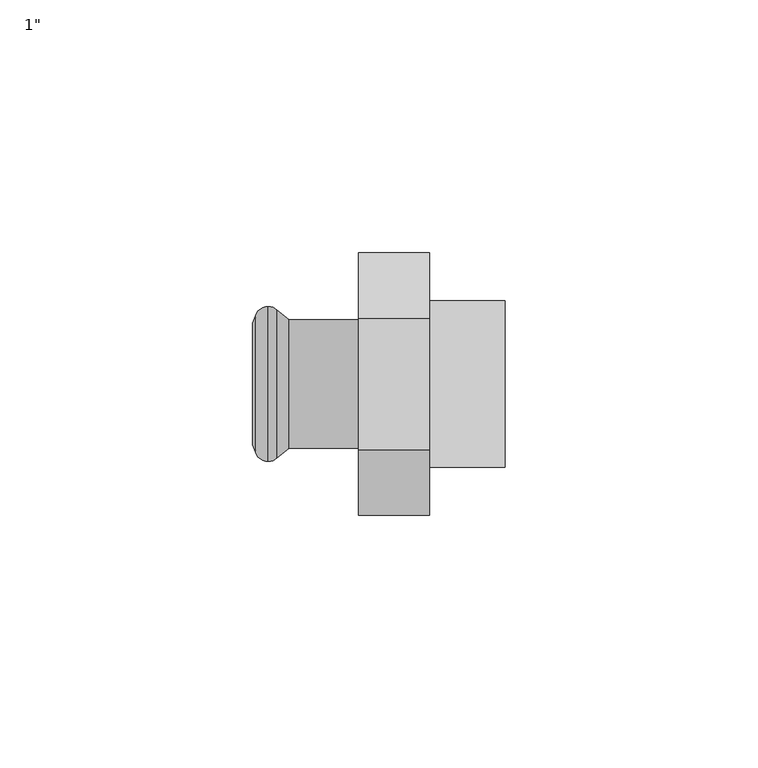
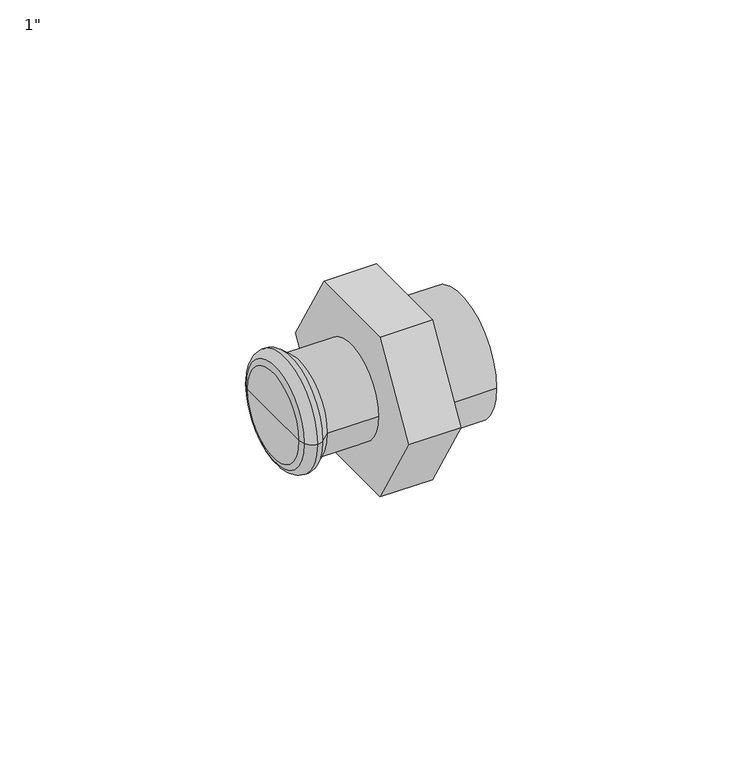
"""IFC4 building model written with IfcOpenShell, lengths in millimetres: pipe fitting geometry."""

from ifc_helpers import new_model, si_unit, point, frame, origin, origin_2d, place, context, project, spatial, polyline, circle_curve, ellipse_curve, trimmed, segment, composite_curve, outline, extrude, source, transform, mapped, element, save
from ifc_brep_helpers import plane_surface, cylinder_surface, revolved_surface, advanced_brep


def pipe_fitting_14387145(model_context):
    return source(origin(), model_context, "Body", "SolidModel", [
        extrude(outline(composite_curve([segment(trimmed(circle_curve(origin_2d(), 16.5), [point((-16.5, 0.0))], [point((16.5, 0.0))], False, "CARTESIAN"), True, "CONTINUOUS"), segment(trimmed(circle_curve(origin_2d(), 16.5), [point((16.5, 0.0))], [point((-16.5, 0.0))], False, "CARTESIAN"), True, "CONTINUOUS")], self_intersect=False)), frame((14.0, 0.0, 0.0), z_axis=(1.0, 0.0, 0.0), x_axis=(0.0, 1.0, 0.0)), (0.0, 0.0, 1.0), 15.0),
        extrude(outline(polyline([(-25.9807621, 0.0), (-12.9903811, 22.5), (12.9903811, 22.5), (25.9807621, 0.0), (12.9903811, -22.5), (-12.9903811, -22.5), (-25.9807621, 0.0)])), frame((0.0, 0.0, 0.0), z_axis=(1.0, 0.0, 0.0), x_axis=(0.0, 1.0, 0.0)), (0.0, 0.0, 1.0), 14.0),
        advanced_brep(
        [(-13.7838092, -12.7, 0.0), (-13.7838092, 12.7, 0.0), (0.0, 12.7, 0.0), (0.0, -12.7, 0.0), (-16.0922627, -14.6370225, 0.0), (-16.0922627, 14.6370225, 0.0), (-17.8921278, -15.325, 0.0), (-17.8921278, 15.325, 0.0), (-20.432052, -13.5484544, 0.0), (-20.432052, 13.5484544, 0.0), (-21.0, -11.9880302, 0.0), (-21.0, 11.9880302, 0.0), (-21.0, 0.0, 0.0), (0.0, 0.0, 0.0)],
        [
            (0, 1, circle_curve(frame((-13.7838092, 0.0, 0.0), z_axis=(1.0, 0.0, 0.0), x_axis=(0.0, 1.0, 0.0)), 12.7)),
            (1, 2),
            (2, 3, circle_curve(frame((0.0, 0.0, 0.0), z_axis=(-1.0, 0.0, 0.0), x_axis=(0.0, 1.0, 0.0)), 12.7)),
            (3, 0),
            (1, 0, circle_curve(frame((-13.7838092, 0.0, 0.0), z_axis=(1.0, 0.0, 0.0), x_axis=(0.0, 1.0, 0.0)), 12.7)),
            (3, 2, circle_curve(frame((0.0, 0.0, 0.0), z_axis=(-1.0, 0.0, 0.0), x_axis=(0.0, 1.0, 0.0)), 12.7)),
            (4, 5, circle_curve(frame((-16.0922627, 0.0, 0.0), z_axis=(1.0, 0.0, 0.0), x_axis=(0.0, 1.0, 0.0)), 14.6370225)),
            (5, 1),
            (0, 4),
            (5, 4, circle_curve(frame((-16.0922627, 0.0, 0.0), z_axis=(1.0, 0.0, 0.0), x_axis=(0.0, 1.0, 0.0)), 14.6370225)),
            (6, 7, circle_curve(frame((-17.8921278, 0.0, 0.0), z_axis=(1.0, 0.0, 0.0), x_axis=(0.0, 1.0, 0.0)), 15.325)),
            (7, 5, circle_curve(frame((-17.8935049, 12.6230333, 0.0), z_axis=(0.0, 0.0, -1.0), x_axis=(1.0, 0.0, 0.0)), 2.701967)),
            (4, 6, circle_curve(frame((-17.8935049, -12.6230333, 0.0), z_axis=(0.0, 0.0, -1.0), x_axis=(1.0, 0.0, 0.0)), 2.701967)),
            (7, 6, circle_curve(frame((-17.8921278, 0.0, 0.0), z_axis=(1.0, 0.0, 0.0), x_axis=(0.0, 1.0, 0.0)), 15.325)),
            (8, 9, circle_curve(frame((-20.432052, 0.0, 0.0), z_axis=(1.0, 0.0, 0.0), x_axis=(0.0, 1.0, 0.0)), 13.5484544)),
            (9, 7, circle_curve(frame((-17.89488, 12.6249993, 0.0), z_axis=(0.0, 0.0, -1.0), x_axis=(1.0, 0.0, 0.0)), 2.7000021)),
            (6, 8, circle_curve(frame((-17.89488, -12.6249993, 0.0), z_axis=(0.0, 0.0, -1.0), x_axis=(1.0, 0.0, 0.0)), 2.7000021)),
            (9, 8, circle_curve(frame((-20.432052, 0.0, 0.0), z_axis=(1.0, 0.0, 0.0), x_axis=(0.0, 1.0, 0.0)), 13.5484544)),
            (10, 11, circle_curve(frame((-21.0, 0.0, 0.0), z_axis=(1.0, 0.0, 0.0), x_axis=(0.0, 1.0, 0.0)), 11.9880302)),
            (11, 9),
            (8, 10),
            (11, 10, circle_curve(frame((-21.0, 0.0, 0.0), z_axis=(1.0, 0.0, 0.0), x_axis=(0.0, 1.0, 0.0)), 11.9880302)),
            (12, 11),
            (10, 12),
            (2, 13),
            (13, 3),
        ],
        [
            cylinder_surface(frame((1342.742668, 0.0, 0.0), z_axis=(-1.0, 0.0, 0.0), x_axis=(0.0, 1.0, 0.0)), 12.7),
            revolved_surface(polyline([(-13.7838092, 12.7, 0.0), (-16.0922627, 14.6370225, 0.0)]), (1342.742668, 0.0, 0.0), (-1.0, 0.0, 0.0)),
            revolved_surface(trimmed(ellipse_curve(frame((-17.8935049, 12.6230333, 0.0), z_axis=(0.0, 0.0, 1.0), x_axis=(1.0, 0.0, 0.0)), 2.701967, 2.701967), [point((-16.0922627, 14.6370225, 0.0))], [point((-17.8921278, 15.325, 0.0))], True, "CARTESIAN"), (1342.742668, 0.0, 0.0), (-1.0, 0.0, 0.0)),
            revolved_surface(trimmed(ellipse_curve(frame((-17.89488, 12.6249993, 0.0), z_axis=(0.0, 0.0, 1.0), x_axis=(1.0, 0.0, 0.0)), 2.7000021, 2.7000021), [point((-17.8921278, 15.325, 0.0))], [point((-20.432052, 13.5484544, 0.0))], True, "CARTESIAN"), (1342.742668, 0.0, 0.0), (-1.0, 0.0, 0.0)),
            revolved_surface(polyline([(-20.432052, 13.5484544, 0.0), (-21.0, 11.9880302, 0.0)]), (1342.742668, 0.0, 0.0), (-1.0, 0.0, 0.0)),
            plane_surface(frame((-21.0, 0.0, 0.0), z_axis=(-1.0, 0.0, 0.0), x_axis=(0.0, 1.0, 0.0))),
            plane_surface(frame((0.0, 0.0, 0.0), z_axis=(1.0, 0.0, 0.0), x_axis=(0.0, 1.0, 0.0))),
        ],
        [
            (0, [[1, 2, 3, 4]]),
            (0, [[5, -4, 6, -2]]),
            (1, [[7, 8, -1, 9]]),
            (1, [[10, -9, -5, -8]]),
            (2, [[11, 12, -7, 13]]),
            (2, [[14, -13, -10, -12]]),
            (3, [[15, 16, -11, 17]]),
            (3, [[18, -17, -14, -16]]),
            (4, [[19, 20, -15, 21]]),
            (4, [[22, -21, -18, -20]]),
            (5, [[23, -19, 24]]),
            (5, [[-24, -22, -23]]),
            (6, [[-3, 25, 26]]),
            (6, [[-6, -26, -25]]),
        ],
    ),
    ])


if __name__ == "__main__":
    model = new_model("IFC4")
    model_context = context("Model", 3, world=origin())
    ifc_project = project(units=[si_unit("LENGTHUNIT", "METRE", prefix="MILLI")], contexts=[model_context])
    site = spatial("IfcSite", under=ifc_project)
    building = spatial("IfcBuilding", under=site)
    placement = place(None, origin())
    pipe_fitting_shape = pipe_fitting_14387145(model_context)
    element("IfcPipeFitting", 1, ObjectType="KAN-therm Steel złączka z GZ : 1\"", at=placement, inside=building, context=model_context, shape_type="MappedRepresentation", body=[
        mapped(pipe_fitting_shape, transform((0.0, 0.0, 0.0), x_axis=(1.0, 0.0, 0.0), y_axis=(0.0, 1.0, 0.0), z_axis=(0.0, 0.0, 1.0))),
    ])
    save(model, "model.ifc")
